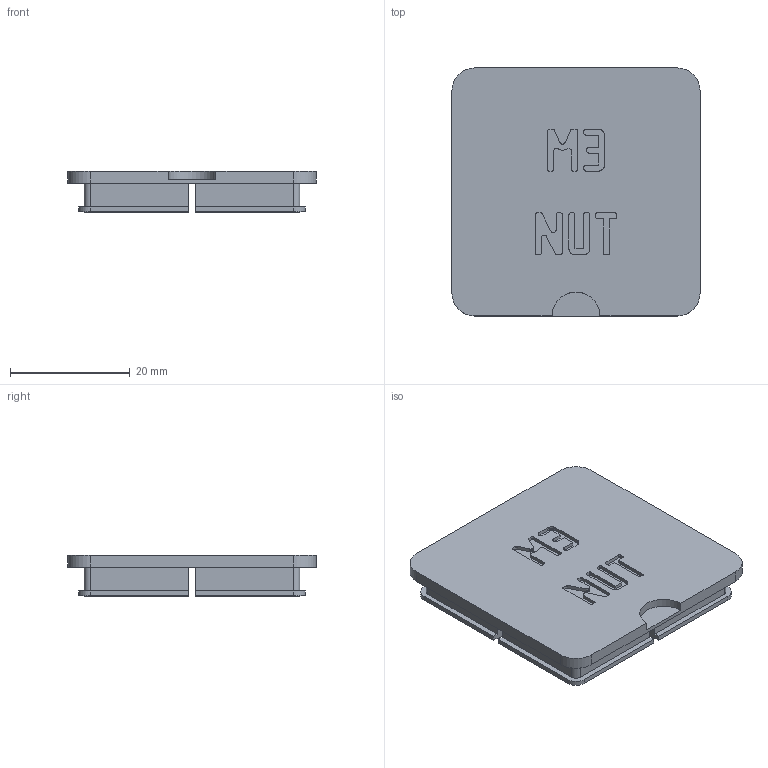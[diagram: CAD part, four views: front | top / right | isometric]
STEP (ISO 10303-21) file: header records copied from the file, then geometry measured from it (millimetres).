
FILE_DESCRIPTION(('Open CASCADE Model'),'2;1');
FILE_NAME('Open CASCADE Shape Model','2026-11-03T17:10:25',('Author'),( 'Open CASCADE'),'Open CASCADE STEP processor 8.0','build123d', 'Unknown');
FILE_SCHEMA(('AUTOMOTIVE_DESIGN { 1 0 10303 214 1 1 1 1 }'));
Length unit declared in the file: millimetre
Products named in the file (1): COMPOUND
Bounding box: 41.5 x 41.5 x 6.9 mm (x, y, z)
Volume: 4221.7 mm3; surface area: 5466.1 mm2
Topology: 1 solids, 1 shells, 548 faces, 1620 edges, 1080 vertices
Faces by surface type: plane 527, cylinder 21
Entity records: 38948 total; most frequent: CARTESIAN_POINT 6845, DIRECTION 5804, LINE 4612, VECTOR 4612, ORIENTED_EDGE 3240, PCURVE 3240, DEFINITIONAL_REPRESENTATION 3240, EDGE_CURVE 1620
